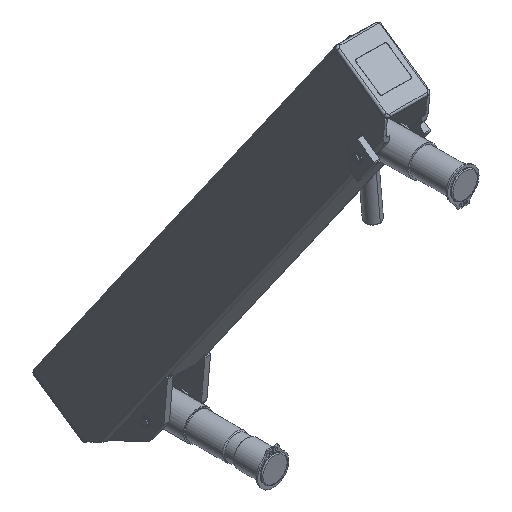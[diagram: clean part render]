
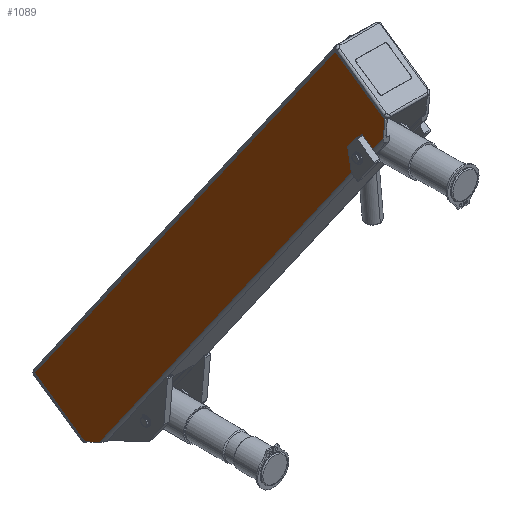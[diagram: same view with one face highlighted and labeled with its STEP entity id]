
A CAD part, isometric view. The second image highlights one B-rep face of the part: STEP entity #1089.
In plain terms, the highlighted planar face has unit normal (-1, 0, 0).
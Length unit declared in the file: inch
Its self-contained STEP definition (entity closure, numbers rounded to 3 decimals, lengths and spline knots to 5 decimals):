
#739 = EDGE_CURVE ( 'NONE', #50379, #3064, #12560, .T. ) ;
#1074 = VECTOR ( 'NONE', #34462, 39.37008 ) ;
#1089 = ADVANCED_FACE ( 'NONE', ( #23098 ), #18745, .T. ) ;
#1402 = DIRECTION ( 'NONE',  ( 0., 0., -1. ) ) ;
#1828 = EDGE_CURVE ( 'NONE', #7667, #37898, #57128, .T. ) ;
#1967 = LINE ( 'NONE', #20918, #60304 ) ;
#2462 = CARTESIAN_POINT ( 'NONE',  ( 0., 0.185, 7.1095 ) ) ;
#3018 = CARTESIAN_POINT ( 'NONE',  ( 0., 0.375, 8.75 ) ) ;
#3064 = VERTEX_POINT ( 'NONE', #50498 ) ;
#3453 = ORIENTED_EDGE ( 'NONE', *, *, #17636, .F. ) ;
#3830 = VERTEX_POINT ( 'NONE', #45784 ) ;
#5592 = EDGE_CURVE ( 'NONE', #14944, #20580, #11691, .T. ) ;
#5919 = CARTESIAN_POINT ( 'NONE',  ( 0., 2.4, -8.75 ) ) ;
#7111 = EDGE_CURVE ( 'NONE', #50021, #12852, #53483, .T. ) ;
#7667 = VERTEX_POINT ( 'NONE', #3018 ) ;
#7820 = DIRECTION ( 'NONE',  ( 1., 0., 0. ) ) ;
#8741 = CARTESIAN_POINT ( 'NONE',  ( 0., 0.375, 8.75 ) ) ;
#10058 = DIRECTION ( 'NONE',  ( 0., -1., 0. ) ) ;
#10562 = CARTESIAN_POINT ( 'NONE',  ( 0., 2.4, 8.75 ) ) ;
#10708 = ORIENTED_EDGE ( 'NONE', *, *, #5592, .T. ) ;
#10755 = LINE ( 'NONE', #30903, #53989 ) ;
#10807 = EDGE_CURVE ( 'NONE', #20580, #30476, #36721, .T. ) ;
#11364 = DIRECTION ( 'NONE',  ( 0., 0.5, -0.866 ) ) ;
#11691 = CIRCLE ( 'NONE', #29508, 0.1405 ) ;
#11885 = DIRECTION ( 'NONE',  ( 0., 0., 1. ) ) ;
#12560 = LINE ( 'NONE', #55365, #56328 ) ;
#12815 = DIRECTION ( 'NONE',  ( 0., -1., 0. ) ) ;
#12852 = VERTEX_POINT ( 'NONE', #51024 ) ;
#14169 = AXIS2_PLACEMENT_3D ( 'NONE', #59644, #7820, #26766 ) ;
#14696 = VERTEX_POINT ( 'NONE', #2462 ) ;
#14710 = DIRECTION ( 'NONE',  ( -1., 0., 0. ) ) ;
#14911 = DIRECTION ( 'NONE',  ( 0., 0., -1. ) ) ;
#14944 = VERTEX_POINT ( 'NONE', #46824 ) ;
#17636 = EDGE_CURVE ( 'NONE', #50021, #3064, #10755, .T. ) ;
#18675 = AXIS2_PLACEMENT_3D ( 'NONE', #56598, #14710, #10058 ) ;
#18724 = VECTOR ( 'NONE', #27686, 39.37008 ) ;
#18745 = PLANE ( 'NONE',  #18675 ) ;
#19999 = CARTESIAN_POINT ( 'NONE',  ( 0., 0.1, -8.75 ) ) ;
#20580 = VERTEX_POINT ( 'NONE', #52816 ) ;
#20918 = CARTESIAN_POINT ( 'NONE',  ( 0., 2.4, -8.75 ) ) ;
#22926 = VECTOR ( 'NONE', #51368, 39.37008 ) ;
#23051 = CARTESIAN_POINT ( 'NONE',  ( 0., -0.06488, 7.375 ) ) ;
#23098 = FACE_OUTER_BOUND ( 'NONE', #61367, .T. ) ;
#25905 = EDGE_CURVE ( 'NONE', #14696, #14944, #34598, .T. ) ;
#26766 = DIRECTION ( 'NONE',  ( 0., 0., -1. ) ) ;
#26836 = DIRECTION ( 'NONE',  ( 0., -1., 0. ) ) ;
#27686 = DIRECTION ( 'NONE',  ( 0., -0.5, -0.866 ) ) ;
#27781 = DIRECTION ( 'NONE',  ( 0., 0., 1. ) ) ;
#28246 = VECTOR ( 'NONE', #12815, 39.37008 ) ;
#28291 = ORIENTED_EDGE ( 'NONE', *, *, #1828, .F. ) ;
#28420 = ORIENTED_EDGE ( 'NONE', *, *, #49590, .T. ) ;
#29508 = AXIS2_PLACEMENT_3D ( 'NONE', #53543, #49494, #1402 ) ;
#30476 = VERTEX_POINT ( 'NONE', #42318 ) ;
#30903 = CARTESIAN_POINT ( 'NONE',  ( 0., 0.375, -8.75 ) ) ;
#32240 = ORIENTED_EDGE ( 'NONE', *, *, #25905, .T. ) ;
#32452 = CARTESIAN_POINT ( 'NONE',  ( 0., 0.12085, 7.125 ) ) ;
#33354 = EDGE_CURVE ( 'NONE', #12852, #3830, #38031, .T. ) ;
#34462 = DIRECTION ( 'NONE',  ( 0., -1., 0. ) ) ;
#34598 = CIRCLE ( 'NONE', #37548, 0.1405 ) ;
#35936 = EDGE_CURVE ( 'NONE', #57352, #7667, #53072, .T. ) ;
#36154 = CARTESIAN_POINT ( 'NONE',  ( 0., 0.1, 8.27369 ) ) ;
#36721 = LINE ( 'NONE', #23051, #28246 ) ;
#37548 = AXIS2_PLACEMENT_3D ( 'NONE', #47485, #37573, #14911 ) ;
#37573 = DIRECTION ( 'NONE',  ( 1., 0., 0. ) ) ;
#37898 = VERTEX_POINT ( 'NONE', #36154 ) ;
#38031 = LINE ( 'NONE', #32452, #22926 ) ;
#39795 = CARTESIAN_POINT ( 'NONE',  ( 0., 2.4, 8.75 ) ) ;
#39832 = ORIENTED_EDGE ( 'NONE', *, *, #7111, .T. ) ;
#39851 = DIRECTION ( 'NONE',  ( 0., 0., 1. ) ) ;
#39954 = EDGE_CURVE ( 'NONE', #50379, #57352, #1967, .T. ) ;
#40585 = VECTOR ( 'NONE', #27781, 39.37008 ) ;
#40933 = CIRCLE ( 'NONE', #14169, 0.1405 ) ;
#41550 = EDGE_CURVE ( 'NONE', #30476, #37898, #51352, .T. ) ;
#41878 = ORIENTED_EDGE ( 'NONE', *, *, #33354, .T. ) ;
#41938 = ORIENTED_EDGE ( 'NONE', *, *, #739, .T. ) ;
#42318 = CARTESIAN_POINT ( 'NONE',  ( 0., 0.1, 7.375 ) ) ;
#43253 = ORIENTED_EDGE ( 'NONE', *, *, #35936, .F. ) ;
#43622 = ORIENTED_EDGE ( 'NONE', *, *, #41550, .T. ) ;
#45784 = CARTESIAN_POINT ( 'NONE',  ( 0., 0.12085, 7.125 ) ) ;
#46824 = CARTESIAN_POINT ( 'NONE',  ( 0., 0.185, 7.3905 ) ) ;
#47485 = CARTESIAN_POINT ( 'NONE',  ( 0., 0.185, 7.25 ) ) ;
#48584 = ORIENTED_EDGE ( 'NONE', *, *, #39954, .F. ) ;
#48950 = VECTOR ( 'NONE', #11885, 39.37008 ) ;
#49494 = DIRECTION ( 'NONE',  ( 1., 0., 0. ) ) ;
#49590 = EDGE_CURVE ( 'NONE', #3830, #14696, #40933, .T. ) ;
#50021 = VERTEX_POINT ( 'NONE', #57132 ) ;
#50379 = VERTEX_POINT ( 'NONE', #5919 ) ;
#50498 = CARTESIAN_POINT ( 'NONE',  ( 0., 0.375, -8.75 ) ) ;
#51024 = CARTESIAN_POINT ( 'NONE',  ( 0., 0.1, 7.125 ) ) ;
#51352 = LINE ( 'NONE', #61250, #40585 ) ;
#51368 = DIRECTION ( 'NONE',  ( 0., 1., 0. ) ) ;
#51634 = ORIENTED_EDGE ( 'NONE', *, *, #10807, .T. ) ;
#52816 = CARTESIAN_POINT ( 'NONE',  ( 0., 0.12085, 7.375 ) ) ;
#53072 = LINE ( 'NONE', #10562, #1074 ) ;
#53483 = LINE ( 'NONE', #19999, #48950 ) ;
#53543 = CARTESIAN_POINT ( 'NONE',  ( 0., 0.185, 7.25 ) ) ;
#53989 = VECTOR ( 'NONE', #11364, 39.37008 ) ;
#55365 = CARTESIAN_POINT ( 'NONE',  ( 0., 2.4, -8.75 ) ) ;
#56328 = VECTOR ( 'NONE', #26836, 39.37008 ) ;
#56598 = CARTESIAN_POINT ( 'NONE',  ( 0., 2.4, -8.75 ) ) ;
#57128 = LINE ( 'NONE', #8741, #18724 ) ;
#57132 = CARTESIAN_POINT ( 'NONE',  ( 0., 0.1, -8.27369 ) ) ;
#57352 = VERTEX_POINT ( 'NONE', #39795 ) ;
#59644 = CARTESIAN_POINT ( 'NONE',  ( 0., 0.185, 7.25 ) ) ;
#60304 = VECTOR ( 'NONE', #39851, 39.37008 ) ;
#61250 = CARTESIAN_POINT ( 'NONE',  ( 0., 0.1, -8.75 ) ) ;
#61367 = EDGE_LOOP ( 'NONE', ( #41878, #28420, #32240, #10708, #51634, #43622, #28291, #43253, #48584, #41938, #3453, #39832 ) ) ;
